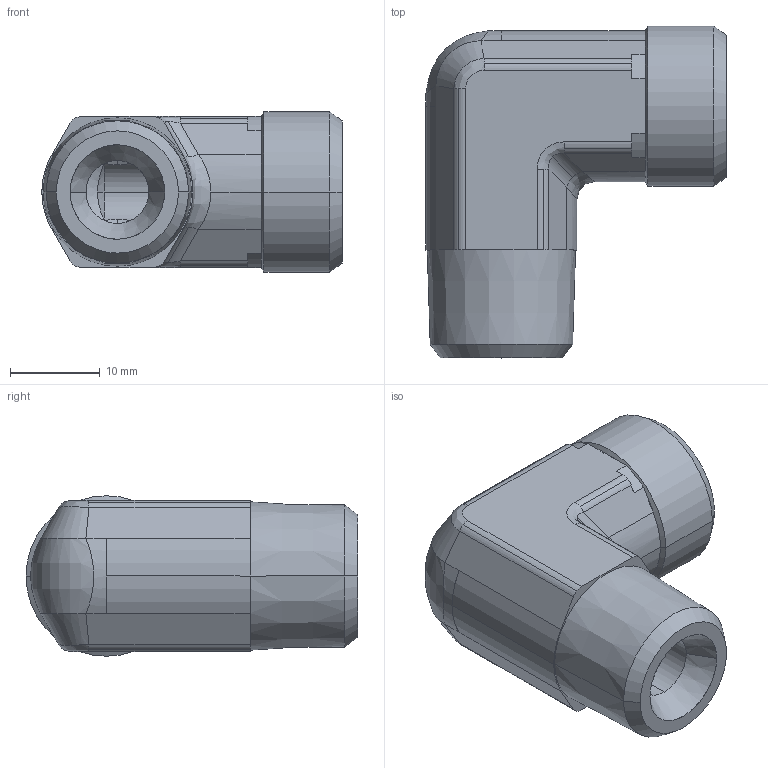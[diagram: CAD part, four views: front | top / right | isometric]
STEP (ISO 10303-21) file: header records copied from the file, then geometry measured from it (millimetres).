
FILE_DESCRIPTION((''),'2;1');
FILE_NAME('102216.stp','2007-10-31T10:28:26',(''),(''),'AutoCAD STEP 2000i','AutoCAD 2000i',', , ');
FILE_SCHEMA(('CONFIG_CONTROL_DESIGN'));
Length unit declared in the file: millimetre
Products named in the file (2): 102216.0; 3090#0
Assembly tree (1 placements, depth 2):
  102216.0
    3090#0
Bounding box: 33.4 x 36.92 x 17.85 mm (x, y, z)
Volume: 9573.2 mm3; surface area: 4379.4 mm2
Topology: 1 solids, 1 shells, 107 faces, 252 edges, 149 vertices
Faces by surface type: cylinder 46, plane 26, cone 21, bspline 14
Entity records: 3924 total; most frequent: CARTESIAN_POINT 1348, DIRECTION 551, ORIENTED_EDGE 504, EDGE_CURVE 252, AXIS2_PLACEMENT_3D 224, VERTEX_POINT 149, CIRCLE 111, EDGE_LOOP 111
